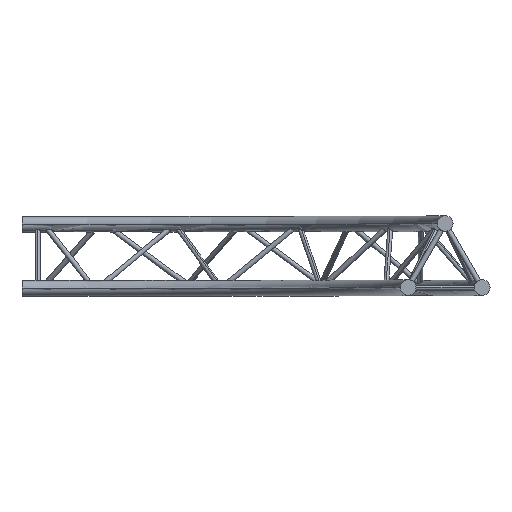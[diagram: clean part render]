
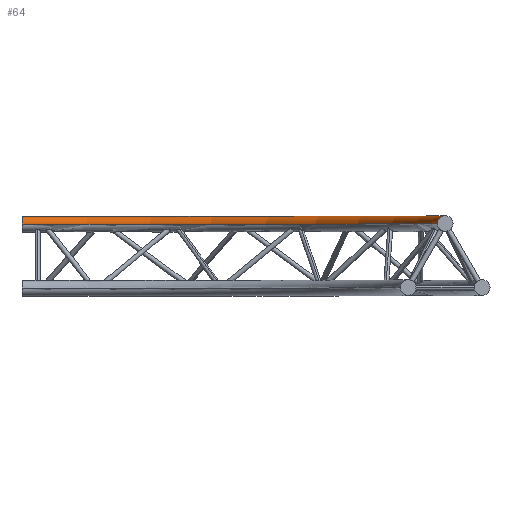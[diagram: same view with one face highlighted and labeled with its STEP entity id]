
A CAD part, top view. The second image highlights one B-rep face of the part: STEP entity #64.
In plain terms, the highlighted toroidal (fillet/blend) face has major radius 1356.5 mm and minor radius 25 mm.
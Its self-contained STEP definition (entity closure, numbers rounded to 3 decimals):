
#50 = EDGE_LOOP ( 'NONE', ( #8482, #7742, #111, #113 ) ) ;
#64 = ADVANCED_FACE ( 'NONE', ( #693 ), #738, .T. ) ;
#111 = ORIENTED_EDGE ( 'NONE', *, *, #7595, .T. ) ;
#112 = EDGE_CURVE ( 'NONE', #7631, #7634, #896, .T. ) ;
#113 = ORIENTED_EDGE ( 'NONE', *, *, #112, .F. ) ;
#693 = FACE_OUTER_BOUND ( 'NONE', #50, .T. ) ;
#734 = DIRECTION ( 'NONE',  ( 0., 0., -1. ) ) ;
#735 = DIRECTION ( 'NONE',  ( 0., -1., 0. ) ) ;
#736 = AXIS2_PLACEMENT_3D ( 'NONE', #737, #735, #734 ) ;
#737 = CARTESIAN_POINT ( 'NONE',  ( 0., 136.832, 0. ) ) ;
#738 = TOROIDAL_SURFACE ( 'NONE', #736, 1356.5, 25. ) ;
#896 = CIRCLE ( 'NONE', #966, 25. ) ;
#963 = DIRECTION ( 'NONE',  ( 1., 0., 0. ) ) ;
#964 = DIRECTION ( 'NONE',  ( 0., 0., 1. ) ) ;
#965 = CARTESIAN_POINT ( 'NONE',  ( 1356.5, 136.832, 0. ) ) ;
#966 = AXIS2_PLACEMENT_3D ( 'NONE', #965, #964, #963 ) ;
#3017 = DIRECTION ( 'NONE',  ( 0., 0., -1. ) ) ;
#3018 = DIRECTION ( 'NONE',  ( 0., -1., 0. ) ) ;
#3019 = CARTESIAN_POINT ( 'NONE',  ( 0., 136.832, 0. ) ) ;
#3020 = AXIS2_PLACEMENT_3D ( 'NONE', #3019, #3018, #3017 ) ;
#3021 = CIRCLE ( 'NONE', #3020, 1331.5 ) ;
#3308 = DIRECTION ( 'NONE',  ( 0., 0., -1. ) ) ;
#3309 = DIRECTION ( 'NONE',  ( 0., -1., 0. ) ) ;
#3310 = CARTESIAN_POINT ( 'NONE',  ( 0., 136.832, 0. ) ) ;
#3311 = AXIS2_PLACEMENT_3D ( 'NONE', #3310, #3309, #3308 ) ;
#3312 = CIRCLE ( 'NONE', #3311, 1381.5 ) ;
#3394 = CARTESIAN_POINT ( 'NONE',  ( 1381.5, 136.832, 0. ) ) ;
#3404 = CARTESIAN_POINT ( 'NONE',  ( 0., 136.832, -1381.5 ) ) ;
#3405 = CARTESIAN_POINT ( 'NONE',  ( 0., 136.832, -1331.5 ) ) ;
#3417 = CARTESIAN_POINT ( 'NONE',  ( 1331.5, 136.832, 0. ) ) ;
#6573 = DIRECTION ( 'NONE',  ( 0., 0., -1. ) ) ;
#6574 = DIRECTION ( 'NONE',  ( 1., 0., 0. ) ) ;
#6575 = CARTESIAN_POINT ( 'NONE',  ( 0., 136.832, -1356.5 ) ) ;
#6576 = AXIS2_PLACEMENT_3D ( 'NONE', #6575, #6574, #6573 ) ;
#6577 = CIRCLE ( 'NONE', #6576, 25. ) ;
#7595 = EDGE_CURVE ( 'NONE', #7638, #7634, #3021, .T. ) ;
#7627 = EDGE_CURVE ( 'NONE', #7639, #7631, #3312, .T. ) ;
#7631 = VERTEX_POINT ( 'NONE', #3394 ) ;
#7634 = VERTEX_POINT ( 'NONE', #3417 ) ;
#7638 = VERTEX_POINT ( 'NONE', #3405 ) ;
#7639 = VERTEX_POINT ( 'NONE', #3404 ) ;
#7742 = ORIENTED_EDGE ( 'NONE', *, *, #8397, .T. ) ;
#8397 = EDGE_CURVE ( 'NONE', #7639, #7638, #6577, .T. ) ;
#8482 = ORIENTED_EDGE ( 'NONE', *, *, #7627, .F. ) ;
